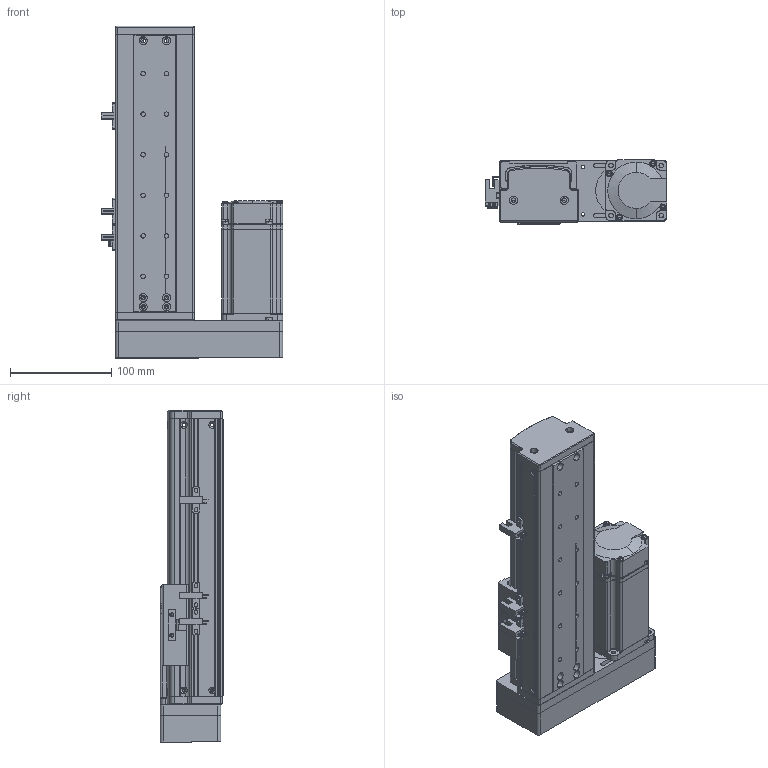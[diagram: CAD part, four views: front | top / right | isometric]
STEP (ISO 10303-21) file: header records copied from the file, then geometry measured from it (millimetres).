
FILE_DESCRIPTION (( 'STEP AP214' ), '1' );
FILE_NAME ('KSD75S-S120-ML-CM.STEP', '2019-10-18T06:54:16', ( '微软用户' ), ( '微软中国' ), 'SwSTEP 2.0', 'SolidWorks 2014', '' );
FILE_SCHEMA (( 'AUTOMOTIVE_DESIGN' ));
Length unit declared in the file: millimetre
Products named in the file (13): MGW15H賑寢120俴最 ; 75裔啣-120俴最; 75遵耀郪耜啣-120俴最; 75遵賑雄釱; ヶ傷啣; 綴傷啣 ; U倰嫖萇EEㄜSX672; 75宽模组保护罩左右折; 75宽马达安装板连板左右折丝杆; 覜茼え100遵圉猾敕; MHMD042G1CA_2_03; KSD75S-S120-ML-CM; MGW15H賑寢120俴最
Assembly tree (15 placements, depth 3):
  KSD75S-S120-ML-CM
    MGW15H賑寢120俴最 
      MGW15H賑寢120俴最
    75遵賑雄釱
    75遵耀郪耜啣-120俴最  x2
    75裔啣-120俴最
    ヶ傷啣
    綴傷啣 
    U倰嫖萇EEㄜSX672  x3
    覜茼え100遵圉猾敕
    75宽马达安装板连板左右折丝杆
    75宽模组保护罩左右折
    MHMD042G1CA_2_03
Bounding box: 178.7 x 63 x 327.5 mm (x, y, z)
Volume: 575709.8 mm3; surface area: 359951.1 mm2
Topology: 13 solids, 14 shells, 1393 faces, 3970 edges, 2589 vertices
Faces by surface type: cylinder 635, plane 611, cone 129, bspline 18
Entity records: 44762 total; most frequent: CARTESIAN_POINT 8568, DIRECTION 6584, ORIENTED_EDGE 6220, EDGE_CURVE 3181, AXIS2_PLACEMENT_3D 2384, VERTEX_POINT 2107, LINE 1816, VECTOR 1816
